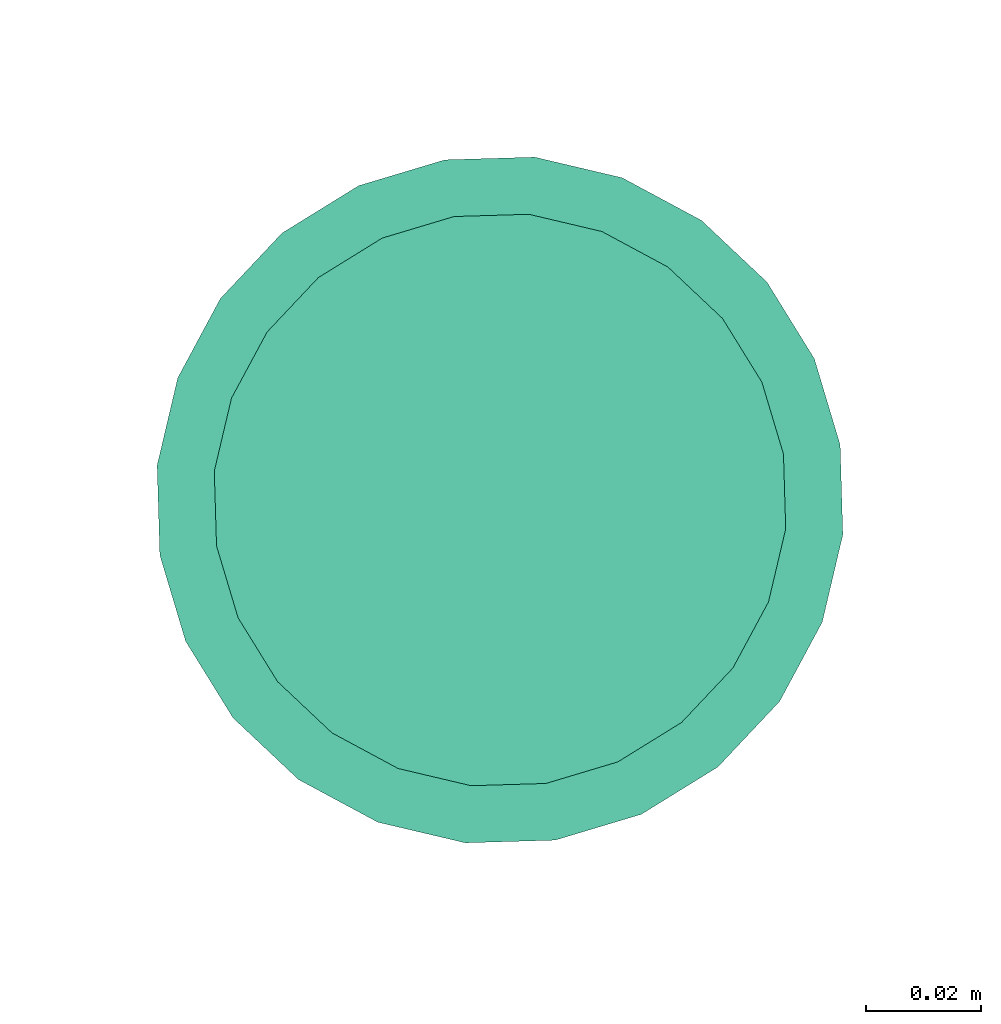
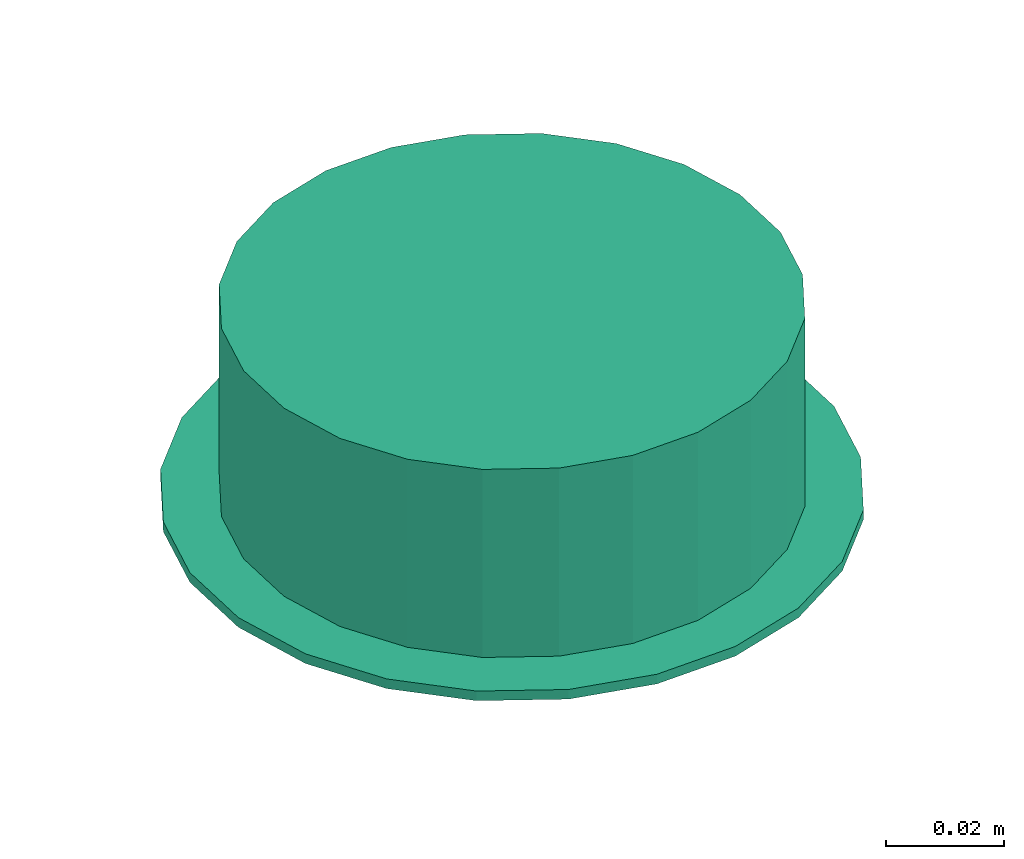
# One storey, part 9 of 20: 1 flow terminal.
"""IFC2X3 building model written with IfcOpenShell, lengths in millimetres."""

import ifcopenshell
import ifcopenshell.guid

model = None  # the IFC model being written
_history = None  # IfcOwnerHistory: only IFC2X3 demands one
_inside = {}  # id of a spatial element -> (the spatial element, [elements in it])
_under = {}  # id of a project, library or spatial element -> (it, [spatial elements below it])
_declared = {}  # id of a project -> (the project, [libraries it declares])
_typed = {}  # id of a type object -> (the type object, [elements of that type])
_made_of = {}  # id of a material, layer set ... -> (it, [elements and type objects made of it])


def new_model(schema):
    """Start an empty IFC model of exactly this schema.

    Asked for "IFC4X3", IfcOpenShell would pick the latest addendum, in which some entities
    have other attributes; the version numbers below select the first issue.
    IFC2X3 requires an IfcOwnerHistory on every rooted entity: one is made here for all.
    """
    global model, _history
    if schema == "IFC4X3":
        model = ifcopenshell.file(schema_version=(4, 3, 0, 0))
    else:
        model = ifcopenshell.file(schema=schema)
    _inside.clear()
    _under.clear()
    _declared.clear()
    _typed.clear()
    _made_of.clear()
    _history = None
    if model.schema == "IFC2X3":
        org = make("IfcOrganization", Name="unknown")
        user = make(
            "IfcPersonAndOrganization",
            ThePerson=make("IfcPerson", FamilyName="unknown"),
            TheOrganization=org,
        )
        app = make(
            "IfcApplication",
            ApplicationDeveloper=org,
            Version="unknown",
            ApplicationFullName="unknown",
            ApplicationIdentifier="unknown",
        )
        _history = make(
            "IfcOwnerHistory",
            OwningUser=user,
            OwningApplication=app,
            ChangeAction="ADDED",
            CreationDate=0,
        )
    return model


def make(cls, **values):
    """One entity of the class cls with the attributes given. An attribute that is None is left unset."""
    return model.create_entity(
        cls, **{name: value for name, value in values.items() if value is not None}
    )


def entity(cls, *values):
    """Any entity or typed value of the class cls, its attributes in the order of the schema. None: left unset."""
    e = model.create_entity(cls)
    for i, value in enumerate(values):
        if value is not None:
            e[i] = value
    return e


def rooted(cls, **values):
    """An entity with a GlobalId (a new one), such as an element, a storey or a relation."""
    return make(cls, GlobalId=ifcopenshell.guid.new(), OwnerHistory=_history, **values)


def si_unit(unit_type, name, prefix=None):
    """IfcSIUnit, for example si_unit("LENGTHUNIT", "METRE", prefix="MILLI")."""
    return make("IfcSIUnit", UnitType=unit_type, Prefix=prefix, Name=name)


def converted_unit(unit_type, name, factor, base, dimensions=None, offset=None):
    """IfcConversionBasedUnit, such as the inch: factor (a typed value) times the base unit."""
    return make(
        "IfcConversionBasedUnit"
        if offset is None
        else "IfcConversionBasedUnitWithOffset",
        ConversionOffset=offset,
        Dimensions=None
        if dimensions is None
        else entity("IfcDimensionalExponents", *dimensions),
        UnitType=unit_type,
        Name=name,
        ConversionFactor=make(
            "IfcMeasureWithUnit", ValueComponent=factor, UnitComponent=base
        ),
    )


def derived_unit(unit_type, elements):
    """IfcDerivedUnit: a product of units, each with its exponent."""
    return make(
        "IfcDerivedUnit",
        Elements=[
            make("IfcDerivedUnitElement", Unit=unit, Exponent=power)
            for unit, power in elements
        ],
        UnitType=unit_type,
    )


def assignment(units):
    """IfcUnitAssignment: the units of a project."""
    return None if units is None else make("IfcUnitAssignment", Units=units)


def point(xyz):
    """IfcCartesianPoint."""
    return None if xyz is None else make("IfcCartesianPoint", Coordinates=xyz)


def direction(xyz):
    """IfcDirection."""
    return None if xyz is None else make("IfcDirection", DirectionRatios=xyz)


def frame(location, z_axis=None, x_axis=None):
    """IfcAxis2Placement3D, a coordinate frame: its origin and axes. An axis left out is left unset."""
    return make(
        "IfcAxis2Placement3D",
        Location=point(location),
        Axis=direction(z_axis),
        RefDirection=direction(x_axis),
    )


def origin():
    """The frame at (0, 0, 0) with its axes left unset."""
    return frame((0.0, 0.0, 0.0))


def origin_with_axes():
    """The frame at (0, 0, 0) with the z axis (0, 0, 1) and the x axis (1, 0, 0) written out."""
    return frame((0.0, 0.0, 0.0), z_axis=(0.0, 0.0, 1.0), x_axis=(1.0, 0.0, 0.0))


def place(relative_to, where):
    """IfcLocalPlacement: puts the frame where relative to a parent placement (None: the world)."""
    return make(
        "IfcLocalPlacement", PlacementRelTo=relative_to, RelativePlacement=where
    )


def context(
    kind, dimensions, precision=None, world=None, true_north=None, identifier=None
):
    """IfcGeometricRepresentationContext, for example the 3D "Model" context."""
    return make(
        "IfcGeometricRepresentationContext",
        ContextIdentifier=identifier,
        ContextType=kind,
        CoordinateSpaceDimension=dimensions,
        Precision=precision,
        WorldCoordinateSystem=world,
        TrueNorth=true_north,
    )


def subcontext(parent, identifier, kind, view, scale=None):
    """IfcGeometricRepresentationSubContext, for example "Body" below "Model"."""
    return make(
        "IfcGeometricRepresentationSubContext",
        ContextIdentifier=identifier,
        ContextType=kind,
        ParentContext=parent,
        TargetScale=scale,
        TargetView=view,
    )


def project(units=None, contexts=None):
    """IfcProject with its units and contexts."""
    return rooted(
        "IfcProject",
        Name="project",
        RepresentationContexts=contexts,
        UnitsInContext=assignment(units),
    )


def spatial(cls, under=None, at=None, **own):
    """A site, building, storey or space (cls), placed at a placement, below another one or the project."""
    s = rooted(cls, ObjectPlacement=at, **own)
    if under is not None:
        _under.setdefault(under.id(), (under, []))[1].append(s)
    return s


def faces_of(points, faces, orient=None, outer=None):
    """IfcFace entities. A face is a list of loops; a loop is a list of indices into points, from 0.

    orient and outer hold one flag for each loop. By default every Orientation is true, the
    first loop of a face is its IfcFaceOuterBound and the others are IfcFaceBound.
    """
    made = []
    for i, loops in enumerate(faces):
        bounds = []
        for j, loop in enumerate(loops):
            is_outer = j == 0 if outer is None else outer[i][j]
            bounds.append(
                make(
                    "IfcFaceOuterBound" if is_outer else "IfcFaceBound",
                    Bound=make("IfcPolyLoop", Polygon=[points[k] for k in loop]),
                    Orientation=True if orient is None else orient[i][j],
                )
            )
        made.append(make("IfcFace", Bounds=bounds))
    return made


def faceted_brep(points, faces, orient=None, outer=None, voids=None):
    """IfcFacetedBrep: a solid bounded by flat faces; with voids (closed shells), ...WithVoids."""
    shared = [point(p) for p in points]
    hull = make("IfcClosedShell", CfsFaces=faces_of(shared, faces, orient, outer))
    if voids is None:
        return make("IfcFacetedBrep", Outer=hull)
    return make(
        "IfcFacetedBrepWithVoids",
        Outer=hull,
        Voids=[
            make(cls, CfsFaces=faces_of(shared, fs, o, b)) for cls, fs, o, b in voids
        ],
    )


def shape(context_of_items, identifier, shape_type, items):
    """IfcShapeRepresentation: the items that make up one representation, for example the "Body"."""
    return make(
        "IfcShapeRepresentation",
        ContextOfItems=context_of_items,
        RepresentationIdentifier=identifier,
        RepresentationType=shape_type,
        Items=items,
    )


def source(mapping_origin, context_of_items, identifier, shape_type, items):
    """IfcRepresentationMap: a shape defined once, which mapped items show again and again."""
    return make(
        "IfcRepresentationMap",
        MappingOrigin=mapping_origin,
        MappedRepresentation=shape(context_of_items, identifier, shape_type, items),
    )


def transform(
    local_origin,
    x_axis=None,
    y_axis=None,
    z_axis=None,
    scale=None,
    scale2=None,
    scale3=None,
    uniform=True,
):
    """IfcCartesianTransformationOperator3D, or its non-uniform kind. x_axis, y_axis, z_axis: its Axis1, 2, 3."""
    if uniform:
        return make(
            "IfcCartesianTransformationOperator3D",
            Axis1=direction(x_axis),
            Axis2=direction(y_axis),
            LocalOrigin=point(local_origin),
            Scale=scale,
            Axis3=direction(z_axis),
        )
    return make(
        "IfcCartesianTransformationOperator3DnonUniform",
        Axis1=direction(x_axis),
        Axis2=direction(y_axis),
        LocalOrigin=point(local_origin),
        Scale=scale,
        Axis3=direction(z_axis),
        Scale2=scale2,
        Scale3=scale3,
    )


def mapped(mapping_source, mapping_target):
    """IfcMappedItem: shows the shape of a source again, moved by a transform."""
    return make(
        "IfcMappedItem", MappingSource=mapping_source, MappingTarget=mapping_target
    )


def material(Name=None, Category=None):
    """IfcMaterial."""
    return make("IfcMaterial", Name=Name, Category=Category)


def material_list(materials):
    """IfcMaterialList."""
    return make("IfcMaterialList", Materials=materials)


def made_of(thing, what):
    """Note that an element or type object is made of a material, layer set ...; save() writes the relation."""
    if what is not None:
        _made_of.setdefault(what.id(), (what, []))[1].append(thing)
    return thing


def type_object(cls, material=None, **own):
    """A type object (cls), such as IfcWallType, which elements share."""
    return made_of(rooted(cls, **own), material)


def element(
    cls,
    number,
    at=None,
    inside=None,
    cuts=None,
    type_object=None,
    material=None,
    context=None,
    identifier="Body",
    shape_type=None,
    held_by="IfcProductDefinitionShape",
    body=None,
    shapes=None,
    **own,
):
    """One element of the class cls, such as IfcWall. Its Tag is "e" and its number.

    at: its placement. inside: the storey or other place that contains it. cuts: it is an
    opening in that element (IfcRelVoidsElement). A single representation is given by context,
    identifier, shape_type and body (its items); several are given by shapes. held_by: the class
    of the entity that holds the representations. save() writes the other relations.
    """
    e = rooted(cls, Tag="e%d" % number, ObjectPlacement=at, **own)
    if body is not None:
        shapes = [shape(context, identifier, shape_type, body)]
    if shapes is not None:
        e.Representation = make(held_by, Representations=shapes)
    if inside is not None:
        _inside.setdefault(inside.id(), (inside, []))[1].append(e)
    if cuts is not None:
        rooted(
            "IfcRelVoidsElement", RelatingBuildingElement=cuts, RelatedOpeningElement=e
        )
    if type_object is not None:
        _typed.setdefault(type_object.id(), (type_object, []))[1].append(e)
    return made_of(e, material)


def aggregate(whole, parts):
    """IfcRelAggregates: a whole, such as a stair, and the parts it consists of."""
    return rooted("IfcRelAggregates", RelatingObject=whole, RelatedObjects=parts)


def save(model, path):
    """Write the relations noted so far, then the file.

    IfcRelAggregates (storeys below a building ...), IfcRelContainedInSpatialStructure (elements
    in a storey), IfcRelDefinesByType, IfcRelAssociatesMaterial and IfcRelDeclares: one each for
    every whole, place, type object, material and project.
    """
    for whole, parts in _under.values():
        aggregate(whole, parts)
    for where, things in _inside.values():
        rooted(
            "IfcRelContainedInSpatialStructure",
            RelatedElements=things,
            RelatingStructure=where,
        )
    for kind, things in _typed.values():
        rooted("IfcRelDefinesByType", RelatedObjects=things, RelatingType=kind)
    for what, things in _made_of.values():
        rooted("IfcRelAssociatesMaterial", RelatedObjects=things, RelatingMaterial=what)
    for by, libraries in _declared.values():
        rooted("IfcRelDeclares", RelatingContext=by, RelatedDefinitions=libraries)
    model.write(path)


model = new_model("IFC2X3")

# Units and contexts
model_context = context("Model", 3, precision=0.01, world=origin(), true_north=direction((6.12323399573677e-17, 1.0)))
plan_context = context("Plan", 3, precision=1e-05, world=origin_with_axes())
body_context = subcontext(model_context, "Body", "Model", "MODEL_VIEW")
ifc_project = project(units=[converted_unit("PLANEANGLEUNIT", "DEGREE", entity("IfcPositiveLengthMeasure", 0.0174532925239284), si_unit("PLANEANGLEUNIT", "RADIAN"), dimensions=[0, 0, 0, 0, 0, 0, 0]), si_unit("AREAUNIT", "SQUARE_METRE"), si_unit("LENGTHUNIT", "METRE", prefix="MILLI"), si_unit("MASSUNIT", "GRAM", prefix="KILO"), si_unit("POWERUNIT", "WATT"), si_unit("PRESSUREUNIT", "PASCAL", prefix="KILO"), si_unit("FORCEUNIT", "NEWTON", prefix="KILO"), si_unit("ELECTRICVOLTAGEUNIT", "VOLT"), si_unit("ELECTRICCURRENTUNIT", "AMPERE"), si_unit("THERMODYNAMICTEMPERATUREUNIT", "DEGREE_CELSIUS"), si_unit("TIMEUNIT", "SECOND"), si_unit("VOLUMEUNIT", "CUBIC_METRE"), derived_unit("LINEARVELOCITYUNIT", [(si_unit("LENGTHUNIT", "METRE"), 1), (si_unit("TIMEUNIT", "SECOND"), -1)]), derived_unit("VOLUMETRICFLOWRATEUNIT", [(si_unit("VOLUMEUNIT", "CUBIC_METRE"), 1), (si_unit("TIMEUNIT", "SECOND"), -1)]), derived_unit("THERMALTRANSMITTANCEUNIT", [(si_unit("POWERUNIT", "WATT"), 1), (si_unit("THERMODYNAMICTEMPERATUREUNIT", "KELVIN"), -1), (si_unit("AREAUNIT", "SQUARE_METRE"), -1)]), derived_unit("SOUNDPRESSUREUNIT", [(si_unit("PRESSUREUNIT", "PASCAL"), 1)])], contexts=[model_context, plan_context])

# Site, building, storey
site_placement = place(None, frame((-0.219946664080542, 0.12226179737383, 0.0), z_axis=(0.0, 0.0, 1.0), x_axis=(-0.160236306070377, 0.987078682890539, 0.0)))
site = spatial("IfcSite", under=ifc_project, at=site_placement, Name="Default", CompositionType="ELEMENT")
building_placement = place(site_placement, origin_with_axes())
building = spatial("IfcBuilding", under=site, at=building_placement, CompositionType="ELEMENT")
storey_placement = place(building_placement, frame((0.0, 0.0, 50999.9999999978), z_axis=(0.0, 0.0, 1.0), x_axis=(1.0, 0.0, 0.0)))
storey = spatial("IfcBuildingStorey", under=building, at=storey_placement, Name="Nivå D", CompositionType="ELEMENT", Elevation=50999.9999999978)

# Flow terminal
ifc_material_1 = material(Name="magi2D")
ifc_material_2 = material(Name="<Unnamed>")
ifc_material_list = material_list([ifc_material_1, ifc_material_2])
light_fixture_type = type_object("IfcLightFixtureType", Name="Ledelys bredstrålende LED innfelt:-UN6200 RAL 9010", PredefinedType="NOTDEFINED", material=ifc_material_list)
shared_shape = source(origin(), body_context, "Body", "Brep", [
    faceted_brep([(20.0, -34.6410161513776, 2.0), (28.2842712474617, -28.284271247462, 2.0), (34.6410161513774, -20.0, 2.0), (38.6370330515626, -10.3527618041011, 2.0), (40.0, 0.0, 2.0), (38.6370330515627, 10.3527618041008, 2.0), (34.6410161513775, 20.0, 2.0), (28.2842712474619, 28.2842712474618, 2.0), (20.0, 34.6410161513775, 2.0), (10.3527618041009, 38.6370330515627, 2.0), (0.0, 40.0, 2.0), (-10.3527618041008, 38.6370330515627, 2.0), (-20.0, 34.6410161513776, 2.0), (-28.2842712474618, 28.2842712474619, 2.0), (-34.6410161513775, 20.0, 2.0), (-38.6370330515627, 10.3527618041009, 2.0), (-40.0, 0.0, 2.0), (-38.6370330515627, -10.3527618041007, 2.0), (-34.6410161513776, -20.0, 2.0), (-28.284271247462, -28.2842712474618, 2.0), (-20.0, -34.6410161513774, 2.0), (-10.352761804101, -38.6370330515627, 2.0), (0.0, -40.0, 2.0), (10.3527618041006, -38.6370330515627, 2.0), (10.3527618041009, 38.6370330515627, 0.0), (20.0, 34.6410161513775, 0.0), (28.2842712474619, 28.2842712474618, 0.0), (34.6410161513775, 20.0, 0.0), (38.6370330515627, 10.3527618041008, 0.0), (40.0, 0.0, 0.0), (38.6370330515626, -10.3527618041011, 0.0), (34.6410161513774, -20.0, 0.0), (28.2842712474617, -28.284271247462, 0.0), (20.0, -34.6410161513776, 0.0), (10.3527618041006, -38.6370330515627, 0.0), (0.0, -40.0, 0.0), (-10.352761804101, -38.6370330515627, 0.0), (-20.0, -34.6410161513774, 0.0), (-28.284271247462, -28.2842712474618, 0.0), (-34.6410161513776, -20.0, 0.0), (-38.6370330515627, -10.3527618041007, 0.0), (-40.0, 0.0, 0.0), (-38.6370330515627, 10.3527618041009, 0.0), (-34.6410161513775, 20.0, 0.0), (-28.2842712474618, 28.2842712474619, 0.0), (-20.0, 34.6410161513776, 0.0), (-10.3527618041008, 38.6370330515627, 0.0), (0.0, 40.0, 0.0)], [[[0, 1, 2, 3, 4, 5, 6, 7, 8, 9, 10, 11, 12, 13, 14, 15, 16, 17, 18, 19, 20, 21, 22, 23]], [[24, 25, 26, 27, 28, 29, 30, 31, 32, 33, 34, 35, 36, 37, 38, 39, 40, 41, 42, 43, 44, 45, 46, 47]], [[40, 17, 16, 41]], [[39, 18, 17, 40]], [[20, 19, 38, 37]], [[39, 38, 19, 18]], [[21, 20, 37, 36]], [[22, 21, 36, 35]], [[34, 23, 22, 35]], [[33, 0, 23, 34]], [[2, 1, 32, 31]], [[33, 32, 1, 0]], [[3, 2, 31, 30]], [[4, 3, 30, 29]], [[28, 5, 4, 29]], [[27, 6, 5, 28]], [[8, 7, 26, 25]], [[27, 26, 7, 6]], [[9, 8, 25, 24]], [[10, 9, 24, 47]], [[46, 11, 10, 47]], [[45, 12, 11, 46]], [[14, 13, 44, 43]], [[45, 44, 13, 12]], [[15, 14, 43, 42]], [[16, 15, 42, 41]]]),
    faceted_brep([(57.9555495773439, -15.5291427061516, 1.0), (58.9777747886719, -7.76457135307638, 1.0), (60.0, 0.0, 1.0), (58.8999312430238, 8.35585178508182, 1.0), (57.9555495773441, 15.5291427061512, 1.0), (54.9585369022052, 22.7645713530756, 1.0), (51.9615242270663, 30.0, 1.0), (47.1939655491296, 36.2132034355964, 1.0), (42.4264068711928, 42.4264068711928, 1.0), (36.2132034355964, 47.1939655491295, 1.0), (30.0, 51.9615242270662, 1.0), (22.7645713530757, 54.9585369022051, 1.0), (15.5291427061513, 57.955549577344, 1.0), (7.76457135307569, 58.977774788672, 1.0), (0.0, 60.0, 1.0), (-7.76457135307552, 58.977774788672, 1.0), (-15.5291427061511, 57.9555495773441, 1.0), (-22.7645713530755, 54.9585369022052, 1.0), (-30.0, 51.9615242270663, 1.0), (-36.2132034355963, 47.1939655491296, 1.0), (-42.4264068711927, 42.4264068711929, 1.0), (-47.1939655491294, 36.2132034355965, 1.0), (-51.9615242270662, 30.0, 1.0), (-54.9585369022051, 22.7645713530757, 1.0), (-57.955549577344, 15.5291427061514, 1.0), (-58.977774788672, 7.76457135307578, 1.0), (-60.0, 0.0, 1.0), (-58.89993124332, -8.35585178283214, 1.0), (-57.9555495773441, -15.529142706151, 1.0), (-54.9585369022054, -22.7645713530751, 1.0), (-51.9615242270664, -30.0, 1.0), (-47.1939655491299, -36.2132034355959, 1.0), (-42.426406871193, -42.4264068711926, 1.0), (-36.2132034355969, -47.1939655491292, 1.0), (-30.0, -51.9615242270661, 1.0), (-22.7645713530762, -54.9585369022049, 1.0), (-15.5291427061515, -57.955549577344, 1.0), (-7.76457135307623, -58.9777747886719, 1.0), (0.0, -60.0, 1.0), (7.76457135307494, -58.9777747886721, 1.0), (15.5291427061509, -57.9555495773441, 1.0), (22.764571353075, -54.9585369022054, 1.0), (30.0, -51.9615242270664, 1.0), (36.2132034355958, -47.19396554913, 1.0), (42.4264068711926, -42.426406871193, 1.0), (47.1939655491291, -36.213203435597, 1.0), (51.9615242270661, -30.0, 1.0), (54.9585369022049, -22.7645713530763, 1.0), (-51.9615242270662, 30.0, -1.0), (-47.1939655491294, 36.2132034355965, -1.0), (-42.4264068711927, 42.4264068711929, -1.0), (-36.2132034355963, 47.1939655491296, -1.0), (-30.0, 51.9615242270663, -1.0), (-22.7645713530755, 54.9585369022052, -1.0), (-15.5291427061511, 57.9555495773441, -1.0), (-7.76457135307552, 58.977774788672, -1.0), (0.0, 60.0, -1.0), (7.76457135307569, 58.977774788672, -1.0), (15.5291427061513, 57.955549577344, -1.0), (22.7645713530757, 54.9585369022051, -1.0), (30.0, 51.9615242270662, -1.0), (36.2132034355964, 47.1939655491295, -1.0), (42.4264068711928, 42.4264068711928, -1.0), (47.1939655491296, 36.2132034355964, -1.0), (51.9615242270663, 30.0, -1.0), (54.9585369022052, 22.7645713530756, -1.0), (57.9555495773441, 15.5291427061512, -1.0), (58.977774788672, 7.76457135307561, -1.0), (60.0, 0.0, -1.0), (58.9777747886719, -7.76457135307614, -1.0), (57.9555495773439, -15.5291427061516, -1.0), (54.9585369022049, -22.7645713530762, -1.0), (51.9615242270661, -30.0, -1.0), (47.1939655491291, -36.2132034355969, -1.0), (42.4264068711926, -42.426406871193, -1.0), (36.2132034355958, -47.19396554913, -1.0), (30.0, -51.9615242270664, -1.0), (22.764571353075, -54.9585369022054, -1.0), (15.5291427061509, -57.9555495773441, -1.0), (7.76457135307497, -58.9777747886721, -1.0), (0.0, -60.0, -1.0), (-7.76457135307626, -58.9777747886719, -1.0), (-15.5291427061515, -57.955549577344, -1.0), (-22.7645713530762, -54.9585369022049, -1.0), (-30.0, -51.9615242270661, -1.0), (-36.2132034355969, -47.1939655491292, -1.0), (-42.426406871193, -42.4264068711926, -1.0), (-47.1939655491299, -36.2132034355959, -1.0), (-51.9615242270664, -30.0, -1.0), (-54.9585369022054, -22.764571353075, -1.0), (-57.9555495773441, -15.529142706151, -1.0), (-58.9777747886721, -7.76457135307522, -1.0), (-60.0, 0.0, -1.0), (-58.977774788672, 7.76457135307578, -1.0), (-57.955549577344, 15.5291427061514, -1.0), (-54.9585369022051, 22.7645713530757, -1.0)], [[[0, 1, 2, 3, 4, 5, 6, 7, 8, 9, 10, 11, 12, 13, 14, 15, 16, 17, 18, 19, 20, 21, 22, 23, 24, 25, 26, 27, 28, 29, 30, 31, 32, 33, 34, 35, 36, 37, 38, 39, 40, 41, 42, 43, 44, 45, 46, 47]], [[48, 49, 50, 51, 52, 53, 54, 55, 56, 57, 58, 59, 60, 61, 62, 63, 64, 65, 66, 67, 68, 69, 70, 71, 72, 73, 74, 75, 76, 77, 78, 79, 80, 81, 82, 83, 84, 85, 86, 87, 88, 89, 90, 91, 92, 93, 94, 95]], [[90, 28, 27, 26, 92, 91]], [[1, 0, 70, 69, 68, 2]], [[90, 89, 88, 30, 29, 28]], [[86, 85, 84, 34, 33, 32]], [[71, 70, 0, 47, 46, 72]], [[88, 87, 86, 32, 31, 30]], [[84, 83, 82, 36, 35, 34]], [[38, 37, 36, 82, 81, 80]], [[80, 79, 78, 40, 39, 38]], [[43, 42, 76, 75, 74, 44]], [[73, 72, 46, 45, 44, 74]], [[78, 77, 76, 42, 41, 40]], [[66, 4, 3, 2, 68, 67]], [[25, 24, 94, 93, 92, 26]], [[66, 65, 64, 6, 5, 4]], [[62, 61, 60, 10, 9, 8]], [[95, 94, 24, 23, 22, 48]], [[64, 63, 62, 8, 7, 6]], [[60, 59, 58, 12, 11, 10]], [[14, 13, 12, 58, 57, 56]], [[56, 55, 54, 16, 15, 14]], [[19, 18, 52, 51, 50, 20]], [[49, 48, 22, 21, 20, 50]], [[54, 53, 52, 18, 17, 16]]]),
    faceted_brep([(12.9409522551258, -48.2962913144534, 40.0), (25.0, -43.301270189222, 40.0), (35.3553390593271, -35.3553390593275, 40.0), (43.3012701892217, -25.0, 40.0), (48.2962913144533, -12.9409522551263, 40.0), (50.0, 0.0, 40.0), (48.2962913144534, 12.940952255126, 40.0), (43.3012701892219, 25.0, 40.0), (35.3553390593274, 35.3553390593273, 40.0), (25.0, 43.3012701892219, 40.0), (12.9409522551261, 48.2962913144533, 40.0), (0.0, 50.0, 40.0), (-12.9409522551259, 48.2962913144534, 40.0), (-25.0, 43.3012701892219, 40.0), (-35.3553390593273, 35.3553390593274, 40.0), (-43.3012701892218, 25.0, 40.0), (-48.2962913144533, 12.9409522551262, 40.0), (-50.0, 0.0, 40.0), (-48.2962913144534, -12.9409522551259, 40.0), (-43.301270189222, -25.0, 40.0), (-35.3553390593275, -35.3553390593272, 40.0), (-25.0, -43.3012701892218, 40.0), (-12.9409522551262, -48.2962913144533, 40.0), (0.0, -50.0, 40.0), (25.0, 43.3012701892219, 0.0), (35.3553390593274, 35.3553390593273, 0.0), (24.8999999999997, 43.1280651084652, 0.0), (12.8891884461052, 48.1031061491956, 0.0), (12.9409522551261, 48.2962913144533, 0.0), (35.2139177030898, 35.2139177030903, 0.0), (43.3012701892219, 25.0, 0.0), (43.1280651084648, 24.9000000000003, 0.0), (48.1031061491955, 12.8891884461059, 0.0), (48.2962913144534, 12.940952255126, 0.0), (49.8, 0.0, 0.0), (50.0, 0.0, 0.0), (48.1031061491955, -12.8891884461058, 0.0), (48.2962913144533, -12.9409522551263, 0.0), (43.1280651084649, -24.9000000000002, 0.0), (43.3012701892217, -25.0, 0.0), (35.2139177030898, -35.2139177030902, 0.0), (35.3553390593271, -35.3553390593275, 0.0), (24.8999999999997, -43.1280651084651, 0.0), (25.0, -43.301270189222, 0.0), (12.8891884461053, -48.1031061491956, 0.0), (12.9409522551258, -48.2962913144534, 0.0), (0.0, -49.8, 0.0), (0.0, -50.0, 0.0), (-12.8891884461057, -48.1031061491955, 0.0), (-12.9409522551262, -48.2962913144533, 0.0), (-24.9000000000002, -43.1280651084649, 0.0), (-25.0, -43.3012701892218, 0.0), (-35.2139177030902, -35.2139177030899, 0.0), (-35.3553390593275, -35.3553390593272, 0.0), (-43.1280651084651, -24.8999999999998, 0.0), (-43.301270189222, -25.0, 0.0), (-48.2962913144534, -12.9409522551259, 0.0), (-48.1031061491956, -12.8891884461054, 0.0), (-50.0, 0.0, 0.0), (-49.8, 0.0, 0.0), (-48.2962913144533, 12.9409522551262, 0.0), (-48.1031061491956, 12.8891884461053, 0.0), (-43.3012701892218, 25.0, 0.0), (-43.1280651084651, 24.8999999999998, 0.0), (-35.3553390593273, 35.3553390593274, 0.0), (-35.2139177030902, 35.2139177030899, 0.0), (-25.0, 43.3012701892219, 0.0), (-24.9000000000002, 43.1280651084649, 0.0), (-12.9409522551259, 48.2962913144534, 0.0), (-12.8891884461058, 48.1031061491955, 0.0), (0.0, 50.0, 0.0), (0.0, 49.8, 0.0), (35.2139177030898, -35.2139177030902, 39.8), (24.8999999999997, -43.1280651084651, 39.8), (12.8891884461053, -48.1031061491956, 39.8), (0.0, -49.8, 39.8), (-12.8891884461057, -48.1031061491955, 39.8), (-24.9000000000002, -43.1280651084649, 39.8), (-35.2139177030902, -35.2139177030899, 39.8), (-43.1280651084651, -24.8999999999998, 39.8), (-48.1031061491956, -12.8891884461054, 39.8), (-49.8, 0.0, 39.8), (-48.1031061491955, 12.8891884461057, 39.8), (-43.1280651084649, 24.9000000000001, 39.8), (-35.21391770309, 35.2139177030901, 39.8), (-24.8999999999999, 43.1280651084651, 39.8), (-12.8891884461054, 48.1031061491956, 39.8), (0.0, 49.8, 39.8), (12.8891884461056, 48.1031061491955, 39.8), (24.9, 43.128065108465, 39.8), (35.2139177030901, 35.21391770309, 39.8), (43.128065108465, 24.9, 39.8), (48.1031061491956, 12.8891884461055, 39.8), (49.8, 0.0, 39.8), (48.1031061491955, -12.8891884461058, 39.8), (43.1280651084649, -24.9000000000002, 39.8)], [[[0, 1, 2, 3, 4, 5, 6, 7, 8, 9, 10, 11, 12, 13, 14, 15, 16, 17, 18, 19, 20, 21, 22, 23]], [[24, 25, 26]], [[24, 26, 27]], [[27, 28, 24]], [[26, 25, 29]], [[30, 29, 25]], [[29, 30, 31]], [[31, 30, 32]], [[33, 32, 30]], [[33, 34, 32]], [[34, 33, 35]], [[36, 34, 35]], [[35, 37, 36]], [[36, 37, 38]], [[39, 38, 37]], [[38, 39, 40]], [[40, 39, 41]], [[42, 40, 41]], [[41, 43, 42]], [[42, 43, 44]], [[45, 44, 43]], [[44, 45, 46]], [[46, 45, 47]], [[46, 47, 48]], [[48, 47, 49]], [[48, 49, 50]], [[51, 50, 49]], [[52, 50, 51]], [[52, 51, 53]], [[53, 54, 52]], [[55, 54, 53]], [[54, 55, 56]], [[56, 57, 54]], [[58, 57, 56]], [[58, 59, 57]], [[60, 59, 58]], [[60, 61, 59]], [[61, 60, 62]], [[62, 63, 61]], [[63, 62, 64]], [[63, 64, 65]], [[64, 66, 65]], [[67, 65, 66]], [[67, 66, 68]], [[68, 69, 67]], [[70, 69, 68]], [[28, 71, 70]], [[70, 71, 69]], [[71, 28, 27]], [[56, 18, 17, 58]], [[55, 19, 18, 56]], [[21, 20, 53, 51]], [[55, 53, 20, 19]], [[22, 21, 51, 49]], [[23, 22, 49, 47]], [[1, 43, 41, 2]], [[3, 39, 37, 4]], [[41, 39, 3, 2]], [[4, 37, 35, 5]], [[0, 45, 43, 1]], [[45, 0, 23, 47]], [[33, 6, 5, 35]], [[30, 7, 6, 33]], [[9, 8, 25, 24]], [[30, 25, 8, 7]], [[10, 9, 24, 28]], [[11, 10, 28, 70]], [[12, 68, 66, 13]], [[64, 14, 13, 66]], [[15, 62, 60, 16]], [[64, 62, 15, 14]], [[16, 60, 58, 17]], [[68, 12, 11, 70]], [[72, 73, 74, 75, 76, 77, 78, 79, 80, 81, 82, 83, 84, 85, 86, 87, 88, 89, 90, 91, 92, 93, 94, 95]], [[59, 81, 80, 57]], [[57, 80, 79, 54]], [[50, 52, 78, 77]], [[78, 52, 54, 79]], [[48, 50, 77, 76]], [[48, 76, 75, 46]], [[40, 42, 73, 72]], [[36, 38, 95, 94]], [[72, 95, 38, 40]], [[34, 36, 94, 93]], [[73, 42, 44, 74]], [[46, 75, 74, 44]], [[34, 93, 92, 32]], [[32, 92, 91, 31]], [[26, 29, 90, 89]], [[90, 29, 31, 91]], [[27, 26, 89, 88]], [[27, 88, 87, 71]], [[67, 69, 86, 85]], [[67, 85, 84, 65]], [[61, 63, 83, 82]], [[84, 83, 63, 65]], [[59, 61, 82, 81]], [[71, 87, 86, 69]]]),
])
flow_terminal_placement = place(storey_placement, frame((778902.619644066, -591007.481738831, 2600.0), z_axis=(0.0, 0.0, 1.0), x_axis=(1.0, 0.0, 0.0)))
element("IfcFlowTerminal", 1, at=flow_terminal_placement, inside=storey, type_object=light_fixture_type, material=ifc_material_list, Name="Ledelys bredstrålende LED innfelt:-UN6200 RAL 9010", ObjectType="Ledelys bredstrålende LED innfelt:-UN6200 RAL 9010", context=body_context, shape_type="MappedRepresentation", body=[
    mapped(shared_shape, transform((0.0, 0.0, 0.0), scale=1.0)),
])

save(model, "model.ifc")
